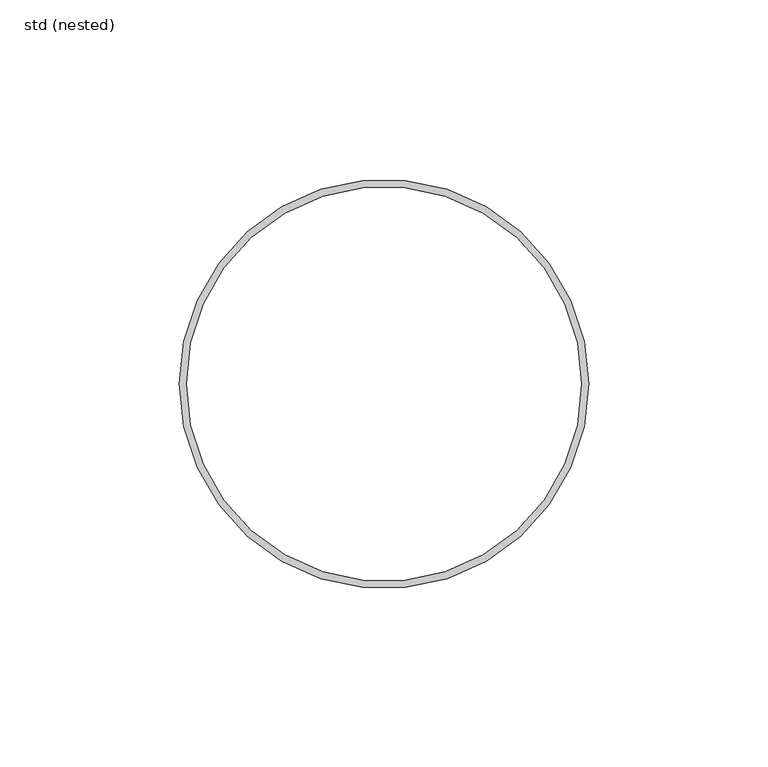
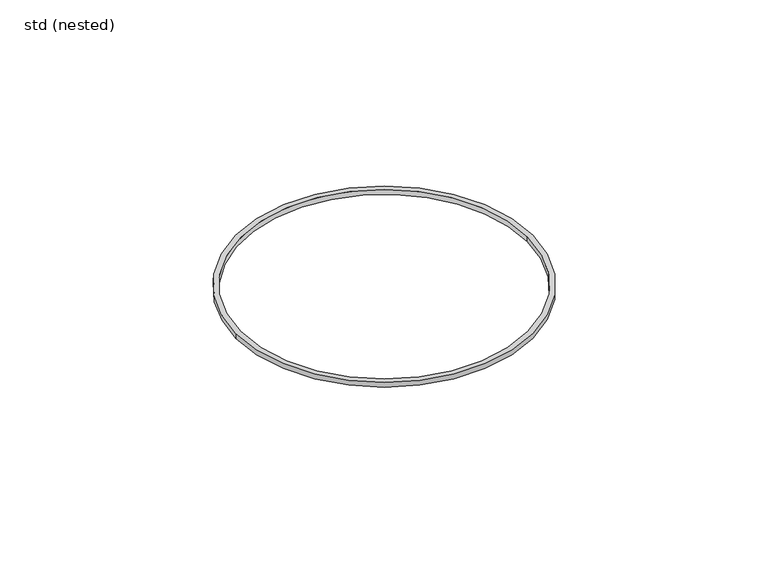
"""IFC4 building model written with IfcOpenShell, lengths in millimetres: pipe fitting geometry, ZZZ_do not use_PIF_GEN_WPB_GM-X (compound) pipe seal_ACO : std (nested)."""

import ifcopenshell
import ifcopenshell.guid

model = None  # the IFC model being written
_history = None  # IfcOwnerHistory: only IFC2X3 demands one
_inside = {}  # id of a spatial element -> (the spatial element, [elements in it])
_under = {}  # id of a project, library or spatial element -> (it, [spatial elements below it])
_declared = {}  # id of a project -> (the project, [libraries it declares])
_typed = {}  # id of a type object -> (the type object, [elements of that type])
_made_of = {}  # id of a material, layer set ... -> (it, [elements and type objects made of it])


def new_model(schema):
    """Start an empty IFC model of exactly this schema.

    Asked for "IFC4X3", IfcOpenShell would pick the latest addendum, in which some entities
    have other attributes; the version numbers below select the first issue.
    IFC2X3 requires an IfcOwnerHistory on every rooted entity: one is made here for all.
    """
    global model, _history
    if schema == "IFC4X3":
        model = ifcopenshell.file(schema_version=(4, 3, 0, 0))
    else:
        model = ifcopenshell.file(schema=schema)
    _inside.clear()
    _under.clear()
    _declared.clear()
    _typed.clear()
    _made_of.clear()
    _history = None
    if model.schema == "IFC2X3":
        org = make("IfcOrganization", Name="unknown")
        user = make(
            "IfcPersonAndOrganization",
            ThePerson=make("IfcPerson", FamilyName="unknown"),
            TheOrganization=org,
        )
        app = make(
            "IfcApplication",
            ApplicationDeveloper=org,
            Version="unknown",
            ApplicationFullName="unknown",
            ApplicationIdentifier="unknown",
        )
        _history = make(
            "IfcOwnerHistory",
            OwningUser=user,
            OwningApplication=app,
            ChangeAction="ADDED",
            CreationDate=0,
        )
    return model


def make(cls, **values):
    """One entity of the class cls with the attributes given. An attribute that is None is left unset."""
    return model.create_entity(
        cls, **{name: value for name, value in values.items() if value is not None}
    )


def rooted(cls, **values):
    """An entity with a GlobalId (a new one), such as an element, a storey or a relation."""
    return make(cls, GlobalId=ifcopenshell.guid.new(), OwnerHistory=_history, **values)


def si_unit(unit_type, name, prefix=None):
    """IfcSIUnit, for example si_unit("LENGTHUNIT", "METRE", prefix="MILLI")."""
    return make("IfcSIUnit", UnitType=unit_type, Prefix=prefix, Name=name)


def assignment(units):
    """IfcUnitAssignment: the units of a project."""
    return None if units is None else make("IfcUnitAssignment", Units=units)


def point(xyz):
    """IfcCartesianPoint."""
    return None if xyz is None else make("IfcCartesianPoint", Coordinates=xyz)


def direction(xyz):
    """IfcDirection."""
    return None if xyz is None else make("IfcDirection", DirectionRatios=xyz)


def frame(location, z_axis=None, x_axis=None):
    """IfcAxis2Placement3D, a coordinate frame: its origin and axes. An axis left out is left unset."""
    return make(
        "IfcAxis2Placement3D",
        Location=point(location),
        Axis=direction(z_axis),
        RefDirection=direction(x_axis),
    )


def frame_2d(location, x_axis=None):
    """IfcAxis2Placement2D, a coordinate frame in the plane: its origin and x axis."""
    return make(
        "IfcAxis2Placement2D", Location=point(location), RefDirection=direction(x_axis)
    )


def origin():
    """The frame at (0, 0, 0) with its axes left unset."""
    return frame((0.0, 0.0, 0.0))


def origin_with_axes():
    """The frame at (0, 0, 0) with the z axis (0, 0, 1) and the x axis (1, 0, 0) written out."""
    return frame((0.0, 0.0, 0.0), z_axis=(0.0, 0.0, 1.0), x_axis=(1.0, 0.0, 0.0))


def origin_2d():
    """The frame at (0, 0) in the plane with its x axis left unset."""
    return frame_2d((0.0, 0.0))


def place(relative_to, where):
    """IfcLocalPlacement: puts the frame where relative to a parent placement (None: the world)."""
    return make(
        "IfcLocalPlacement", PlacementRelTo=relative_to, RelativePlacement=where
    )


def context(
    kind, dimensions, precision=None, world=None, true_north=None, identifier=None
):
    """IfcGeometricRepresentationContext, for example the 3D "Model" context."""
    return make(
        "IfcGeometricRepresentationContext",
        ContextIdentifier=identifier,
        ContextType=kind,
        CoordinateSpaceDimension=dimensions,
        Precision=precision,
        WorldCoordinateSystem=world,
        TrueNorth=true_north,
    )


def project(units=None, contexts=None):
    """IfcProject with its units and contexts."""
    return rooted(
        "IfcProject",
        Name="project",
        RepresentationContexts=contexts,
        UnitsInContext=assignment(units),
    )


def spatial(cls, under=None, at=None, **own):
    """A site, building, storey or space (cls), placed at a placement, below another one or the project."""
    s = rooted(cls, ObjectPlacement=at, **own)
    if under is not None:
        _under.setdefault(under.id(), (under, []))[1].append(s)
    return s


def circle_curve(where, radius):
    """IfcCircle in the frame where."""
    return make("IfcCircle", Position=where, Radius=radius)


def trimmed(basis, trim1, trim2, sense, master):
    """IfcTrimmedCurve: the piece of a basis curve between two trims."""
    return make(
        "IfcTrimmedCurve",
        BasisCurve=basis,
        Trim1=trim1,
        Trim2=trim2,
        SenseAgreement=sense,
        MasterRepresentation=master,
    )


def segment(curve, same_sense, transition):
    """IfcCompositeCurveSegment."""
    return make(
        "IfcCompositeCurveSegment",
        Transition=transition,
        SameSense=same_sense,
        ParentCurve=curve,
    )


def composite_curve(segments, self_intersect=None):
    """IfcCompositeCurve: segments joined end to end."""
    return make("IfcCompositeCurve", Segments=segments, SelfIntersect=self_intersect)


def outline(outer, holes=None, kind="AREA"):
    """IfcArbitraryClosedProfileDef: a profile drawn as a closed curve; with holes, ...WithVoids."""
    if holes is None:
        return make("IfcArbitraryClosedProfileDef", ProfileType=kind, OuterCurve=outer)
    return make(
        "IfcArbitraryProfileDefWithVoids",
        ProfileType=kind,
        OuterCurve=outer,
        InnerCurves=holes,
    )


def extrude(swept, where, along, depth):
    """IfcExtrudedAreaSolid: the profile swept, set in the frame where, extruded along a direction by depth."""
    return make(
        "IfcExtrudedAreaSolid",
        SweptArea=swept,
        Position=where,
        ExtrudedDirection=direction(along),
        Depth=depth,
    )


def shape(context_of_items, identifier, shape_type, items):
    """IfcShapeRepresentation: the items that make up one representation, for example the "Body"."""
    return make(
        "IfcShapeRepresentation",
        ContextOfItems=context_of_items,
        RepresentationIdentifier=identifier,
        RepresentationType=shape_type,
        Items=items,
    )


def source(mapping_origin, context_of_items, identifier, shape_type, items):
    """IfcRepresentationMap: a shape defined once, which mapped items show again and again."""
    return make(
        "IfcRepresentationMap",
        MappingOrigin=mapping_origin,
        MappedRepresentation=shape(context_of_items, identifier, shape_type, items),
    )


def transform(
    local_origin,
    x_axis=None,
    y_axis=None,
    z_axis=None,
    scale=None,
    scale2=None,
    scale3=None,
    uniform=True,
):
    """IfcCartesianTransformationOperator3D, or its non-uniform kind. x_axis, y_axis, z_axis: its Axis1, 2, 3."""
    if uniform:
        return make(
            "IfcCartesianTransformationOperator3D",
            Axis1=direction(x_axis),
            Axis2=direction(y_axis),
            LocalOrigin=point(local_origin),
            Scale=scale,
            Axis3=direction(z_axis),
        )
    return make(
        "IfcCartesianTransformationOperator3DnonUniform",
        Axis1=direction(x_axis),
        Axis2=direction(y_axis),
        LocalOrigin=point(local_origin),
        Scale=scale,
        Axis3=direction(z_axis),
        Scale2=scale2,
        Scale3=scale3,
    )


def mapped(mapping_source, mapping_target):
    """IfcMappedItem: shows the shape of a source again, moved by a transform."""
    return make(
        "IfcMappedItem", MappingSource=mapping_source, MappingTarget=mapping_target
    )


def made_of(thing, what):
    """Note that an element or type object is made of a material, layer set ...; save() writes the relation."""
    if what is not None:
        _made_of.setdefault(what.id(), (what, []))[1].append(thing)
    return thing


def element(
    cls,
    number,
    at=None,
    inside=None,
    cuts=None,
    type_object=None,
    material=None,
    context=None,
    identifier="Body",
    shape_type=None,
    held_by="IfcProductDefinitionShape",
    body=None,
    shapes=None,
    **own,
):
    """One element of the class cls, such as IfcWall. Its Tag is "e" and its number.

    at: its placement. inside: the storey or other place that contains it. cuts: it is an
    opening in that element (IfcRelVoidsElement). A single representation is given by context,
    identifier, shape_type and body (its items); several are given by shapes. held_by: the class
    of the entity that holds the representations. save() writes the other relations.
    """
    e = rooted(cls, Tag="e%d" % number, ObjectPlacement=at, **own)
    if body is not None:
        shapes = [shape(context, identifier, shape_type, body)]
    if shapes is not None:
        e.Representation = make(held_by, Representations=shapes)
    if inside is not None:
        _inside.setdefault(inside.id(), (inside, []))[1].append(e)
    if cuts is not None:
        rooted(
            "IfcRelVoidsElement", RelatingBuildingElement=cuts, RelatedOpeningElement=e
        )
    if type_object is not None:
        _typed.setdefault(type_object.id(), (type_object, []))[1].append(e)
    return made_of(e, material)


def aggregate(whole, parts):
    """IfcRelAggregates: a whole, such as a stair, and the parts it consists of."""
    return rooted("IfcRelAggregates", RelatingObject=whole, RelatedObjects=parts)


def save(model, path):
    """Write the relations noted so far, then the file.

    IfcRelAggregates (storeys below a building ...), IfcRelContainedInSpatialStructure (elements
    in a storey), IfcRelDefinesByType, IfcRelAssociatesMaterial and IfcRelDeclares: one each for
    every whole, place, type object, material and project.
    """
    for whole, parts in _under.values():
        aggregate(whole, parts)
    for where, things in _inside.values():
        rooted(
            "IfcRelContainedInSpatialStructure",
            RelatedElements=things,
            RelatingStructure=where,
        )
    for kind, things in _typed.values():
        rooted("IfcRelDefinesByType", RelatedObjects=things, RelatingType=kind)
    for what, things in _made_of.values():
        rooted("IfcRelAssociatesMaterial", RelatedObjects=things, RelatingMaterial=what)
    for by, libraries in _declared.values():
        rooted("IfcRelDeclares", RelatingContext=by, RelatedDefinitions=libraries)
    model.write(path)


def std_nested_11162a78(model_context):
    return source(origin(), model_context, "Body", "SweptSolid", [
        extrude(outline(composite_curve([segment(trimmed(circle_curve(origin_2d(), 57.0), [point((57.0, 0.0))], [point((-57.0, 0.0))], False, "CARTESIAN"), True, "CONTINUOUS"), segment(trimmed(circle_curve(origin_2d(), 57.0), [point((-57.0, 0.0))], [point((57.0, 0.0))], False, "CARTESIAN"), True, "CONTINUOUS")], self_intersect=False), holes=[composite_curve([segment(trimmed(circle_curve(origin_2d(), 55.0), [point((55.0, 0.0))], [point((-55.0, 0.0))], True, "CARTESIAN"), True, "CONTINUOUS"), segment(trimmed(circle_curve(origin_2d(), 55.0), [point((-55.0, 0.0))], [point((55.0, 0.0))], True, "CARTESIAN"), True, "CONTINUOUS")], self_intersect=False)]), origin_with_axes(), (0.0, 0.0, 1.0), 2.0),
    ])


if __name__ == "__main__":
    model = new_model("IFC4")
    model_context = context("Model", 3, world=origin())
    ifc_project = project(units=[si_unit("LENGTHUNIT", "METRE", prefix="MILLI")], contexts=[model_context])
    site = spatial("IfcSite", under=ifc_project)
    building = spatial("IfcBuilding", under=site)
    placement = place(None, origin())
    std_nested_shape = std_nested_11162a78(model_context)
    element("IfcPipeFitting", 1, ObjectType="ZZZ_do not use_PIF_GEN_WPB_GM-X (compound) pipe seal_ACO : std (nested)", at=placement, inside=building, context=model_context, shape_type="MappedRepresentation", body=[
        mapped(std_nested_shape, transform((0.0, 0.0, 0.0), x_axis=(1.0, 0.0, 0.0), y_axis=(0.0, 1.0, 0.0), z_axis=(0.0, 0.0, 1.0))),
    ])
    save(model, "model.ifc")
